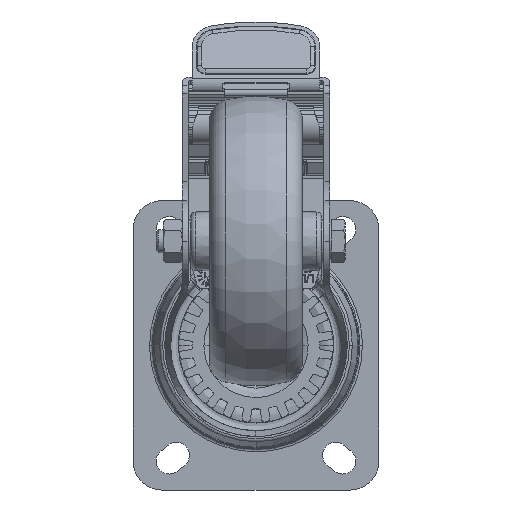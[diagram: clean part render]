
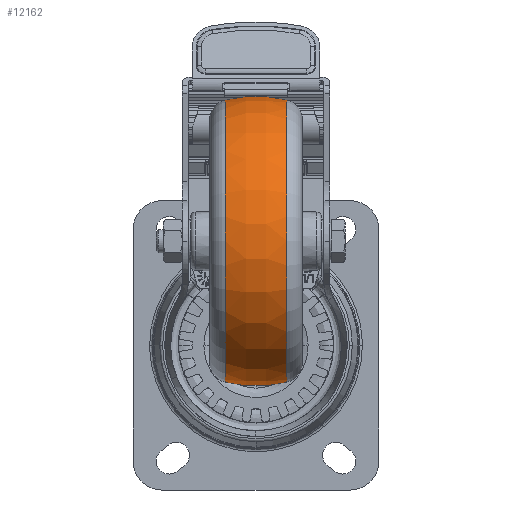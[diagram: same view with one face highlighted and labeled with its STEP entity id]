
A CAD part, front view. The second image highlights one B-rep face of the part: STEP entity #12162.
In plain terms, the highlighted toroidal (fillet/blend) face has major radius 5 mm and minor radius 45 mm.
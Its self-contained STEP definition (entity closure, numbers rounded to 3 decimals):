
#4884 = CARTESIAN_POINT ( 'NONE',  ( -10.658, 0., 48.72 ) ) ;
#4886 = CARTESIAN_POINT ( 'NONE',  ( -10.658, 0., -48.72 ) ) ;
#4892 = CARTESIAN_POINT ( 'NONE',  ( 10.658, 0., 48.72 ) ) ;
#4895 = CARTESIAN_POINT ( 'NONE',  ( 10.658, 0., -48.72 ) ) ;
#12162 = ADVANCED_FACE ( 'NONE', ( #55516 ), #79172, .T. ) ;
#42461 = CARTESIAN_POINT ( 'NONE',  ( 0., 0., -5. ) ) ;
#42462 = DIRECTION ( 'NONE',  ( 0., 1., 0. ) ) ;
#42463 = DIRECTION ( 'NONE',  ( 0., 0., 1. ) ) ;
#42464 = CARTESIAN_POINT ( 'NONE',  ( 0., 0., 5. ) ) ;
#42465 = DIRECTION ( 'NONE',  ( 0., -1., 0. ) ) ;
#42466 = DIRECTION ( 'NONE',  ( 0., 0., -1. ) ) ;
#44343 = EDGE_LOOP ( 'NONE', ( #47609, #47611, #47613, #47615 ) ) ;
#47609 = ORIENTED_EDGE ( 'NONE', *, *, #52209, .F. ) ;
#47611 = ORIENTED_EDGE ( 'NONE', *, *, #51627, .T. ) ;
#47613 = ORIENTED_EDGE ( 'NONE', *, *, #52210, .T. ) ;
#47615 = ORIENTED_EDGE ( 'NONE', *, *, #51625, .F. ) ;
#50684 = CARTESIAN_POINT ( 'NONE',  ( -10.658, 0., 0. ) ) ;
#50685 = DIRECTION ( 'NONE',  ( -1., 0., 0. ) ) ;
#50686 = DIRECTION ( 'NONE',  ( 0., 0., 1. ) ) ;
#50687 = CARTESIAN_POINT ( 'NONE',  ( 10.658, 0., 0. ) ) ;
#50688 = DIRECTION ( 'NONE',  ( -1., 0., 0. ) ) ;
#50689 = DIRECTION ( 'NONE',  ( 0., 0., 1. ) ) ;
#51625 = EDGE_CURVE ( 'NONE', #67317, #67318, #52585, .T. ) ;
#51627 = EDGE_CURVE ( 'NONE', #67328, #67325, #52583, .T. ) ;
#52209 = EDGE_CURVE ( 'NONE', #67328, #67317, #53042, .T. ) ;
#52210 = EDGE_CURVE ( 'NONE', #67325, #67318, #53068, .T. ) ;
#52583 = CIRCLE ( 'NONE', #52589, 48.72 ) ;
#52585 = CIRCLE ( 'NONE', #52587, 48.72 ) ;
#52587 = AXIS2_PLACEMENT_3D ( 'NONE', #50684, #50685, #50686 ) ;
#52589 = AXIS2_PLACEMENT_3D ( 'NONE', #50687, #50688, #50689 ) ;
#53042 = CIRCLE ( 'NONE', #53071, 45. ) ;
#53068 = CIRCLE ( 'NONE', #53075, 45. ) ;
#53071 = AXIS2_PLACEMENT_3D ( 'NONE', #42461, #42462, #42463 ) ;
#53075 = AXIS2_PLACEMENT_3D ( 'NONE', #42464, #42465, #42466 ) ;
#55514 = DIRECTION ( 'NONE',  ( -1., 0., 0. ) ) ;
#55516 = FACE_OUTER_BOUND ( 'NONE', #44343, .T. ) ;
#55520 = CARTESIAN_POINT ( 'NONE',  ( 0., 0., 0. ) ) ;
#55526 = DIRECTION ( 'NONE',  ( 0., 0., 1. ) ) ;
#67317 = VERTEX_POINT ( 'NONE', #4886 ) ;
#67318 = VERTEX_POINT ( 'NONE', #4884 ) ;
#67325 = VERTEX_POINT ( 'NONE', #4892 ) ;
#67328 = VERTEX_POINT ( 'NONE', #4895 ) ;
#79159 = AXIS2_PLACEMENT_3D ( 'NONE', #55520, #55514, #55526 ) ;
#79172 = TOROIDAL_SURFACE ( 'NONE', #79159, 5., 45. ) ;
